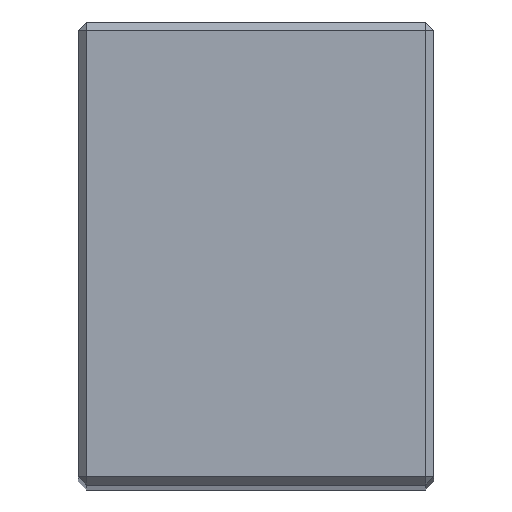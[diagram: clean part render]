
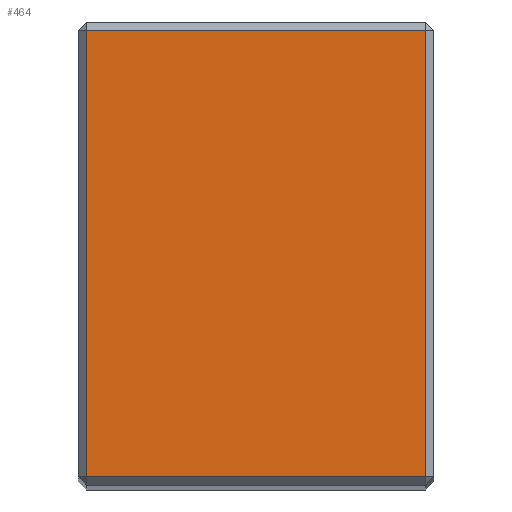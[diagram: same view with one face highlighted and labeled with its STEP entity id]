
A CAD part, top view. The second image highlights one B-rep face of the part: STEP entity #464.
In plain terms, the highlighted planar face has unit normal (0, 0, 1).
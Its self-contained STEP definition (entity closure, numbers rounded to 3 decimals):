
#20 = ORIENTED_EDGE ( 'NONE', *, *, #323, .T. ) ;
#47 = EDGE_CURVE ( 'NONE', #357, #244, #434, .T. ) ;
#59 = VERTEX_POINT ( 'NONE', #300 ) ;
#69 = LINE ( 'NONE', #348, #127 ) ;
#119 = ORIENTED_EDGE ( 'NONE', *, *, #255, .T. ) ;
#127 = VECTOR ( 'NONE', #351, 1000. ) ;
#131 = CARTESIAN_POINT ( 'NONE',  ( 21.5, 1., 173. ) ) ;
#134 = FACE_OUTER_BOUND ( 'NONE', #609, .T. ) ;
#168 = DIRECTION ( 'NONE',  ( 1., 0., 0. ) ) ;
#194 = CARTESIAN_POINT ( 'NONE',  ( 21.5, 56., 173. ) ) ;
#219 = LINE ( 'NONE', #131, #279 ) ;
#228 = DIRECTION ( 'NONE',  ( 0., 1., 0. ) ) ;
#229 = CARTESIAN_POINT ( 'NONE',  ( 20.5, 56., 173. ) ) ;
#244 = VERTEX_POINT ( 'NONE', #330 ) ;
#252 = ORIENTED_EDGE ( 'NONE', *, *, #479, .T. ) ;
#255 = EDGE_CURVE ( 'NONE', #59, #618, #69, .T. ) ;
#279 = VECTOR ( 'NONE', #168, 1000. ) ;
#300 = CARTESIAN_POINT ( 'NONE',  ( -20.5, 55., 173. ) ) ;
#301 = ORIENTED_EDGE ( 'NONE', *, *, #47, .T. ) ;
#323 = EDGE_CURVE ( 'NONE', #244, #59, #522, .T. ) ;
#326 = CARTESIAN_POINT ( 'NONE',  ( 20.5, 1., 173. ) ) ;
#330 = CARTESIAN_POINT ( 'NONE',  ( 20.5, 55., 173. ) ) ;
#341 = VECTOR ( 'NONE', #511, 1000. ) ;
#348 = CARTESIAN_POINT ( 'NONE',  ( -20.5, 56., 173. ) ) ;
#351 = DIRECTION ( 'NONE',  ( 0., -1., 0. ) ) ;
#356 = CARTESIAN_POINT ( 'NONE',  ( -21.5, 55., 173. ) ) ;
#357 = VERTEX_POINT ( 'NONE', #326 ) ;
#434 = LINE ( 'NONE', #229, #644 ) ;
#457 = AXIS2_PLACEMENT_3D ( 'NONE', #194, #507, #577 ) ;
#464 = ADVANCED_FACE ( 'NONE', ( #134 ), #489, .F. ) ;
#475 = CARTESIAN_POINT ( 'NONE',  ( -20.5, 1., 173. ) ) ;
#479 = EDGE_CURVE ( 'NONE', #618, #357, #219, .T. ) ;
#489 = PLANE ( 'NONE',  #457 ) ;
#507 = DIRECTION ( 'NONE',  ( 0., 0., -1. ) ) ;
#511 = DIRECTION ( 'NONE',  ( -1., 0., 0. ) ) ;
#522 = LINE ( 'NONE', #356, #341 ) ;
#577 = DIRECTION ( 'NONE',  ( -1., 0., 0. ) ) ;
#609 = EDGE_LOOP ( 'NONE', ( #20, #119, #252, #301 ) ) ;
#618 = VERTEX_POINT ( 'NONE', #475 ) ;
#644 = VECTOR ( 'NONE', #228, 1000. ) ;
